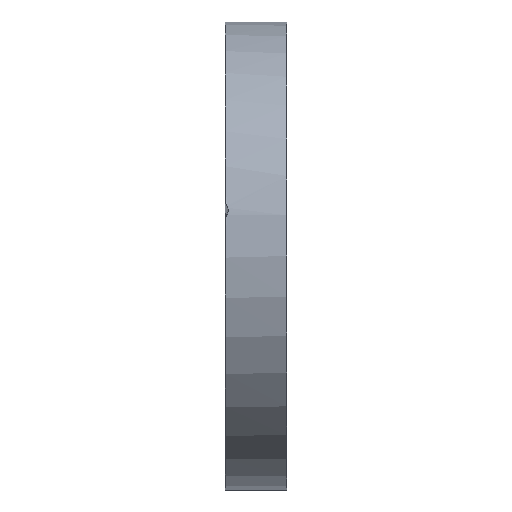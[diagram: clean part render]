
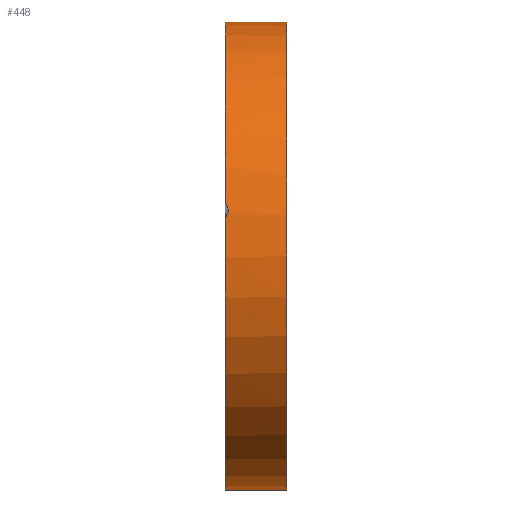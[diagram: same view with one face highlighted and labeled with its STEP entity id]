
A CAD part, left-side view. The second image highlights one B-rep face of the part: STEP entity #448.
In plain terms, the highlighted cylindrical face has radius 76 mm (diameter 152 mm), a partial arc.
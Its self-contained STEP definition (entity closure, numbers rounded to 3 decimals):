
#25 = CARTESIAN_POINT ( 'NONE',  ( -74.803, 19.347, 13.436 ) ) ;
#59 = CARTESIAN_POINT ( 'NONE',  ( -74.92, 19.842, 12.767 ) ) ;
#82 = CARTESIAN_POINT ( 'NONE',  ( 0., 0., 0. ) ) ;
#113 = CARTESIAN_POINT ( 'NONE',  ( 0., 0., 76. ) ) ;
#133 = CIRCLE ( 'NONE', #488, 76. ) ;
#141 = EDGE_CURVE ( 'NONE', #1188, #1022, #145, .T. ) ;
#145 = CIRCLE ( 'NONE', #1334, 76. ) ;
#157 = EDGE_LOOP ( 'NONE', ( #443, #1958, #268, #993, #277, #549 ) ) ;
#179 = CARTESIAN_POINT ( 'NONE',  ( -74.836, 19.454, 13.254 ) ) ;
#183 = CARTESIAN_POINT ( 'NONE',  ( 0., 0., -76. ) ) ;
#198 = CARTESIAN_POINT ( 'NONE',  ( -74.071, 20., 17.014 ) ) ;
#268 = ORIENTED_EDGE ( 'NONE', *, *, #1473, .T. ) ;
#277 = ORIENTED_EDGE ( 'NONE', *, *, #736, .F. ) ;
#282 = CARTESIAN_POINT ( 'NONE',  ( 0., 0., -76. ) ) ;
#314 = VERTEX_POINT ( 'NONE', #1987 ) ;
#331 = CARTESIAN_POINT ( 'NONE',  ( -74.581, 19., 14.622 ) ) ;
#340 = CARTESIAN_POINT ( 'NONE',  ( -74.103, 19.842, 16.876 ) ) ;
#358 = AXIS2_PLACEMENT_3D ( 'NONE', #1666, #904, #1519 ) ;
#364 = DIRECTION ( 'NONE',  ( 0., 0., 1. ) ) ;
#432 = CYLINDRICAL_SURFACE ( 'NONE', #358, 76. ) ;
#437 = EDGE_CURVE ( 'NONE', #314, #1274, #674, .T. ) ;
#443 = ORIENTED_EDGE ( 'NONE', *, *, #829, .F. ) ;
#448 = ADVANCED_FACE ( 'NONE', ( #1821 ), #432, .T. ) ;
#459 = LINE ( 'NONE', #282, #1638 ) ;
#465 = CARTESIAN_POINT ( 'NONE',  ( 0., 20., -76. ) ) ;
#488 = AXIS2_PLACEMENT_3D ( 'NONE', #82, #521, #364 ) ;
#521 = DIRECTION ( 'NONE',  ( 0., 1., 0. ) ) ;
#549 = ORIENTED_EDGE ( 'NONE', *, *, #141, .F. ) ;
#582 = CARTESIAN_POINT ( 'NONE',  ( -74.251, 19.347, 16.213 ) ) ;
#674 = CIRCLE ( 'NONE', #1189, 76. ) ;
#694 = DIRECTION ( 'NONE',  ( 0., 0., 1. ) ) ;
#699 = EDGE_CURVE ( 'NONE', #994, #1403, #133, .T. ) ;
#736 = EDGE_CURVE ( 'NONE', #1022, #314, #1055, .T. ) ;
#792 = CARTESIAN_POINT ( 'NONE',  ( -74.734, 19.175, 13.813 ) ) ;
#829 = EDGE_CURVE ( 'NONE', #994, #1188, #459, .T. ) ;
#873 = CARTESIAN_POINT ( 'NONE',  ( -74.457, 19.022, 15.239 ) ) ;
#900 = DIRECTION ( 'NONE',  ( 0., 1., 0. ) ) ;
#904 = DIRECTION ( 'NONE',  ( 0., 1., 0. ) ) ;
#907 = CARTESIAN_POINT ( 'NONE',  ( 0., 0., 76. ) ) ;
#993 = ORIENTED_EDGE ( 'NONE', *, *, #437, .F. ) ;
#994 = VERTEX_POINT ( 'NONE', #183 ) ;
#1022 = VERTEX_POINT ( 'NONE', #1292 ) ;
#1055 = B_SPLINE_CURVE_WITH_KNOTS ( 'NONE', 3,
 ( #1475, #59, #1313, #179, #25, #792, #1400, #1724, #331, #1733, #873, #1786, #1476, #582, #1182, #1863, #340, #198 ),
 .UNSPECIFIED., .F., .F.,
 ( 4, 2, 2, 2, 2, 2, 2, 2, 4 ),
 ( 0., 0.001, 0.001, 0.002, 0.003, 0.003, 0.004, 0.004, 0.005 ),
 .UNSPECIFIED. ) ;
#1182 = CARTESIAN_POINT ( 'NONE',  ( -74.211, 19.454, 16.393 ) ) ;
#1188 = VERTEX_POINT ( 'NONE', #465 ) ;
#1189 = AXIS2_PLACEMENT_3D ( 'NONE', #1331, #1809, #1832 ) ;
#1274 = VERTEX_POINT ( 'NONE', #1868 ) ;
#1292 = CARTESIAN_POINT ( 'NONE',  ( -74.944, 20., 12.627 ) ) ;
#1313 = CARTESIAN_POINT ( 'NONE',  ( -74.894, 19.701, 12.92 ) ) ;
#1323 = DIRECTION ( 'NONE',  ( 0., 1., 0. ) ) ;
#1331 = CARTESIAN_POINT ( 'NONE',  ( 0., 20., 0. ) ) ;
#1334 = AXIS2_PLACEMENT_3D ( 'NONE', #1633, #1323, #694 ) ;
#1400 = CARTESIAN_POINT ( 'NONE',  ( -74.698, 19.11, 14.009 ) ) ;
#1403 = VERTEX_POINT ( 'NONE', #907 ) ;
#1473 = EDGE_CURVE ( 'NONE', #1403, #1274, #1601, .T. ) ;
#1475 = CARTESIAN_POINT ( 'NONE',  ( -74.944, 20., 12.627 ) ) ;
#1476 = CARTESIAN_POINT ( 'NONE',  ( -74.332, 19.175, 15.838 ) ) ;
#1484 = DIRECTION ( 'NONE',  ( 0., 1., 0. ) ) ;
#1519 = DIRECTION ( 'NONE',  ( 0., 0., 1. ) ) ;
#1601 = LINE ( 'NONE', #113, #1682 ) ;
#1633 = CARTESIAN_POINT ( 'NONE',  ( 0., 20., 0. ) ) ;
#1638 = VECTOR ( 'NONE', #900, 1000. ) ;
#1666 = CARTESIAN_POINT ( 'NONE',  ( 0., 0., 0. ) ) ;
#1682 = VECTOR ( 'NONE', #1484, 1000. ) ;
#1724 = CARTESIAN_POINT ( 'NONE',  ( -74.621, 19.022, 14.414 ) ) ;
#1733 = CARTESIAN_POINT ( 'NONE',  ( -74.499, 19., 15.032 ) ) ;
#1786 = CARTESIAN_POINT ( 'NONE',  ( -74.373, 19.11, 15.643 ) ) ;
#1809 = DIRECTION ( 'NONE',  ( 0., 1., 0. ) ) ;
#1821 = FACE_OUTER_BOUND ( 'NONE', #157, .T. ) ;
#1832 = DIRECTION ( 'NONE',  ( 0., 0., 1. ) ) ;
#1863 = CARTESIAN_POINT ( 'NONE',  ( -74.137, 19.701, 16.724 ) ) ;
#1868 = CARTESIAN_POINT ( 'NONE',  ( 0., 20., 76. ) ) ;
#1958 = ORIENTED_EDGE ( 'NONE', *, *, #699, .T. ) ;
#1987 = CARTESIAN_POINT ( 'NONE',  ( -74.071, 20., 17.014 ) ) ;
